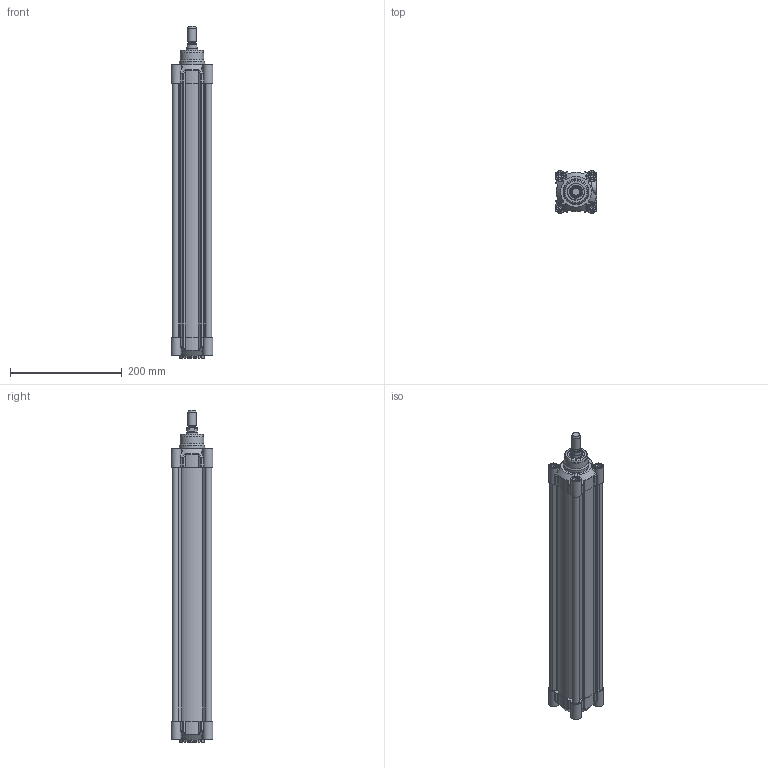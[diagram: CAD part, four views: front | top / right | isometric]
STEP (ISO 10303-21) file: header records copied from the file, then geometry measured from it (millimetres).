
FILE_DESCRIPTION(/* description */ ('CILINDRO D.E. MAGNETICO AMMORTIZZATO ISO 15552'),/* implementation_level */ '2;1');
FILE_NAME(/* name */ 'T:\Archivio Inventor\- 00 NUOVI STP PER SITO CON STELO CHE SI MUOVE\SERIE H - U\SERIE HDM\HDM063 - TUBO NUOVO\HDM063.400.GS.M.stp',/* time_stamp */ '2018-07-30T14:39:35+02:00',/* author */ ('carlo.corazza'),/* organization */ (''),/* preprocessor_version */ 'ST-DEVELOPER v16.5',/* originating_system */ 'Autodesk Inventor 2017',/* authorisation */ '');
FILE_SCHEMA (('AUTOMOTIVE_DESIGN { 1 0 10303 214 3 1 1 }'));
Length unit declared in the file: millimetre
Products named in the file (5): HDM063.400.GS.M; TP; TA; STELO-400; CORPO-400
Assembly tree (4 placements, depth 2):
  HDM063.400.GS.M
    TP
    TA
    STELO-400
    CORPO-400
Bounding box: 75 x 75 x 594 mm (x, y, z)
Volume: 855768.6 mm3; surface area: 437423.7 mm2
Topology: 4 solids, 27 shells, 1241 faces, 2936 edges, 1818 vertices
Faces by surface type: plane 368, cylinder 297, bspline 288, torus 108, cone 106, sphere 74
Full cylindrical faces by diameter (mm): 3 x2, 3.4 x2, 4.8 x2, 5.25 x2, 6.647 x8, 8 x8, 8.3 x12, 9.8 x4, 9.9 x2, 10 x6, 12 x3, 13 x8, 13.3 x8, 13.5 x1, 14.95 x2, 16 x1, 19.5 x1, 20 x1, 20.8 x1, 20.847 x1, 24 x1, 26 x2, 30 x3, 42 x1, 45 x2, 63 x1
Entity records: 40768 total; most frequent: CARTESIAN_POINT 13071, ORIENTED_EDGE 5326, DIRECTION 5100, EDGE_CURVE 2663, AXIS2_PLACEMENT_3D 2037, VERTEX_POINT 1763, EDGE_LOOP 1576, STYLED_ITEM 1245
